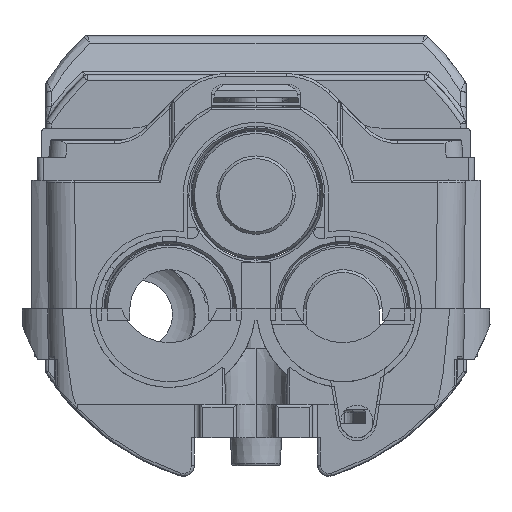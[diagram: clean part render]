
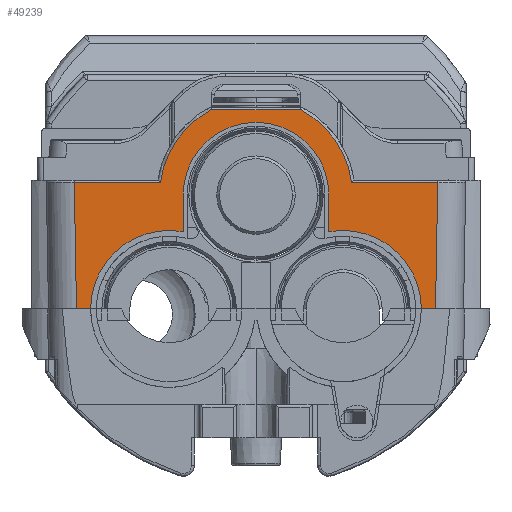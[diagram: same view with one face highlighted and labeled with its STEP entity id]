
A CAD part, left-side view. The second image highlights one B-rep face of the part: STEP entity #49239.
In plain terms, the highlighted planar face has unit normal (-1, 0, 0).
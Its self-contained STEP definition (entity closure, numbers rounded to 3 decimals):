
#222 = AXIS2_PLACEMENT_3D ( 'NONE', #53889, #26287, #58573 ) ;
#791 = CARTESIAN_POINT ( 'NONE',  ( -325.383, 32.028, 34. ) ) ;
#1008 = ORIENTED_EDGE ( 'NONE', *, *, #38467, .F. ) ;
#1701 = DIRECTION ( 'NONE',  ( 0., -1., 0. ) ) ;
#1873 = CARTESIAN_POINT ( 'NONE',  ( -325.383, 29.5, 34. ) ) ;
#2043 = DIRECTION ( 'NONE',  ( -1., 0., 0. ) ) ;
#3951 = EDGE_CURVE ( 'NONE', #58477, #34245, #55581, .T. ) ;
#4007 = EDGE_CURVE ( 'NONE', #58830, #18048, #18743, .T. ) ;
#4240 = DIRECTION ( 'NONE',  ( 0., -1., 0. ) ) ;
#4729 = CARTESIAN_POINT ( 'NONE',  ( -325.383, 37.029, 34. ) ) ;
#5049 = CARTESIAN_POINT ( 'NONE',  ( -325.383, -32.421, 56.5 ) ) ;
#5296 = ORIENTED_EDGE ( 'NONE', *, *, #16974, .T. ) ;
#5644 = ORIENTED_EDGE ( 'NONE', *, *, #56131, .T. ) ;
#5898 = CARTESIAN_POINT ( 'NONE',  ( -325.383, -17.059, 56.5 ) ) ;
#6419 = VERTEX_POINT ( 'NONE', #1873 ) ;
#6484 = CARTESIAN_POINT ( 'NONE',  ( -325.383, 37.029, 56.5 ) ) ;
#6900 = VECTOR ( 'NONE', #44057, 1000. ) ;
#8165 = FACE_OUTER_BOUND ( 'NONE', #57544, .T. ) ;
#8350 = LINE ( 'NONE', #20771, #6900 ) ;
#8516 = EDGE_CURVE ( 'NONE', #46734, #58830, #13462, .T. ) ;
#9802 = DIRECTION ( 'NONE',  ( 0., -0.017, 1. ) ) ;
#10716 = ORIENTED_EDGE ( 'NONE', *, *, #4007, .T. ) ;
#13462 = CIRCLE ( 'NONE', #222, 17.2 ) ;
#14163 = CIRCLE ( 'NONE', #31061, 14. ) ;
#14479 = CARTESIAN_POINT ( 'NONE',  ( -325.383, 37.029, 76. ) ) ;
#14484 = VERTEX_POINT ( 'NONE', #57012 ) ;
#15572 = CARTESIAN_POINT ( 'NONE',  ( -325.383, 0., 54.3 ) ) ;
#16269 = DIRECTION ( 'NONE',  ( 0., 0., -1. ) ) ;
#16968 = EDGE_CURVE ( 'NONE', #52566, #6419, #57452, .T. ) ;
#16974 = EDGE_CURVE ( 'NONE', #14484, #31967, #8350, .T. ) ;
#17276 = VECTOR ( 'NONE', #52922, 1000. ) ;
#17305 = LINE ( 'NONE', #40401, #28197 ) ;
#18048 = VERTEX_POINT ( 'NONE', #23817 ) ;
#18743 = LINE ( 'NONE', #24925, #17276 ) ;
#19135 = DIRECTION ( 'NONE',  ( 0., 0., -1. ) ) ;
#20227 = DIRECTION ( 'NONE',  ( 0., -1., 0. ) ) ;
#20771 = CARTESIAN_POINT ( 'NONE',  ( -325.383, 37.029, 56.5 ) ) ;
#23817 = CARTESIAN_POINT ( 'NONE',  ( -325.383, 8.05, 69.5 ) ) ;
#24042 = ORIENTED_EDGE ( 'NONE', *, *, #48209, .T. ) ;
#24925 = CARTESIAN_POINT ( 'NONE',  ( -325.383, 37.029, 69.5 ) ) ;
#25693 = EDGE_CURVE ( 'NONE', #46870, #34369, #45342, .T. ) ;
#26287 = DIRECTION ( 'NONE',  ( -1., 0., 0. ) ) ;
#28197 = VECTOR ( 'NONE', #44986, 1000. ) ;
#28384 = VERTEX_POINT ( 'NONE', #48351 ) ;
#29345 = DIRECTION ( 'NONE',  ( -1., 0., 0. ) ) ;
#29455 = AXIS2_PLACEMENT_3D ( 'NONE', #15572, #47907, #20227 ) ;
#29687 = CARTESIAN_POINT ( 'NONE',  ( -325.383, 0., 54.3 ) ) ;
#30200 = ORIENTED_EDGE ( 'NONE', *, *, #37038, .T. ) ;
#30595 = VERTEX_POINT ( 'NONE', #42043 ) ;
#30811 = EDGE_CURVE ( 'NONE', #31967, #52566, #17305, .T. ) ;
#31061 = AXIS2_PLACEMENT_3D ( 'NONE', #59555, #31876, #4240 ) ;
#31579 = EDGE_CURVE ( 'NONE', #34245, #46870, #34017, .T. ) ;
#31876 = DIRECTION ( 'NONE',  ( -1., 0., 0. ) ) ;
#31967 = VERTEX_POINT ( 'NONE', #36031 ) ;
#32449 = VECTOR ( 'NONE', #16269, 1000. ) ;
#32785 = EDGE_CURVE ( 'NONE', #34369, #28384, #46186, .T. ) ;
#32918 = PLANE ( 'NONE',  #49957 ) ;
#34017 = LINE ( 'NONE', #49765, #44856 ) ;
#34245 = VERTEX_POINT ( 'NONE', #35671 ) ;
#34369 = VERTEX_POINT ( 'NONE', #55347 ) ;
#34376 = DIRECTION ( 'NONE',  ( 0., 0., -1. ) ) ;
#34927 = CARTESIAN_POINT ( 'NONE',  ( -325.383, 13., 54.3 ) ) ;
#35184 = CARTESIAN_POINT ( 'NONE',  ( -325.383, -13., 54.3 ) ) ;
#35671 = CARTESIAN_POINT ( 'NONE',  ( -325.383, -13., 47.775 ) ) ;
#35743 = ORIENTED_EDGE ( 'NONE', *, *, #31579, .F. ) ;
#36031 = CARTESIAN_POINT ( 'NONE',  ( -325.383, 32.421, 56.5 ) ) ;
#36069 = CARTESIAN_POINT ( 'NONE',  ( -325.383, -8.05, 69.5 ) ) ;
#37038 = EDGE_CURVE ( 'NONE', #59724, #46734, #59004, .T. ) ;
#37084 = DIRECTION ( 'NONE',  ( 0., -1., 0. ) ) ;
#37913 = ORIENTED_EDGE ( 'NONE', *, *, #32785, .F. ) ;
#38467 = EDGE_CURVE ( 'NONE', #28384, #6419, #14163, .T. ) ;
#38871 = DIRECTION ( 'NONE',  ( 0., 1., 0. ) ) ;
#39259 = CARTESIAN_POINT ( 'NONE',  ( -325.383, 37.029, 34. ) ) ;
#40358 = AXIS2_PLACEMENT_3D ( 'NONE', #56997, #29345, #1701 ) ;
#40401 = CARTESIAN_POINT ( 'NONE',  ( -325.383, 32.762, 76.074 ) ) ;
#42043 = CARTESIAN_POINT ( 'NONE',  ( -325.383, -32.028, 34. ) ) ;
#43287 = ORIENTED_EDGE ( 'NONE', *, *, #8516, .T. ) ;
#43779 = VECTOR ( 'NONE', #53053, 1000. ) ;
#44057 = DIRECTION ( 'NONE',  ( 0., 1., 0. ) ) ;
#44185 = AXIS2_PLACEMENT_3D ( 'NONE', #29687, #2043, #34376 ) ;
#44426 = ORIENTED_EDGE ( 'NONE', *, *, #3951, .F. ) ;
#44856 = VECTOR ( 'NONE', #54387, 1000. ) ;
#44986 = DIRECTION ( 'NONE',  ( 0., -0.017, -1. ) ) ;
#45342 = CIRCLE ( 'NONE', #29455, 13. ) ;
#46186 = LINE ( 'NONE', #34927, #32449 ) ;
#46547 = ORIENTED_EDGE ( 'NONE', *, *, #25693, .F. ) ;
#46734 = VERTEX_POINT ( 'NONE', #5898 ) ;
#46787 = CARTESIAN_POINT ( 'NONE',  ( -325.383, -29.5, 34. ) ) ;
#46837 = DIRECTION ( 'NONE',  ( 1., 0., 0. ) ) ;
#46870 = VERTEX_POINT ( 'NONE', #35184 ) ;
#47166 = LINE ( 'NONE', #55763, #59441 ) ;
#47907 = DIRECTION ( 'NONE',  ( -1., 0., 0. ) ) ;
#48209 = EDGE_CURVE ( 'NONE', #18048, #14484, #52188, .T. ) ;
#48351 = CARTESIAN_POINT ( 'NONE',  ( -325.383, 13., 47.775 ) ) ;
#48575 = EDGE_CURVE ( 'NONE', #58477, #30595, #59404, .T. ) ;
#49239 = ADVANCED_FACE ( 'NONE', ( #8165 ), #32918, .F. ) ;
#49765 = CARTESIAN_POINT ( 'NONE',  ( -325.383, -13., 54.3 ) ) ;
#49957 = AXIS2_PLACEMENT_3D ( 'NONE', #14479, #46837, #19135 ) ;
#50007 = VECTOR ( 'NONE', #37084, 1000. ) ;
#52188 = CIRCLE ( 'NONE', #44185, 17.2 ) ;
#52566 = VERTEX_POINT ( 'NONE', #791 ) ;
#52922 = DIRECTION ( 'NONE',  ( 0., 1., 0. ) ) ;
#53053 = DIRECTION ( 'NONE',  ( 0., -1., 0. ) ) ;
#53678 = ORIENTED_EDGE ( 'NONE', *, *, #16968, .T. ) ;
#53853 = ORIENTED_EDGE ( 'NONE', *, *, #48575, .T. ) ;
#53889 = CARTESIAN_POINT ( 'NONE',  ( -325.383, 0., 54.3 ) ) ;
#54362 = ORIENTED_EDGE ( 'NONE', *, *, #30811, .T. ) ;
#54387 = DIRECTION ( 'NONE',  ( 0., 0., 1. ) ) ;
#55347 = CARTESIAN_POINT ( 'NONE',  ( -325.383, 13., 54.3 ) ) ;
#55581 = CIRCLE ( 'NONE', #40358, 14. ) ;
#55763 = CARTESIAN_POINT ( 'NONE',  ( -325.383, -32.74, 74.782 ) ) ;
#56131 = EDGE_CURVE ( 'NONE', #30595, #59724, #47166, .T. ) ;
#56997 = CARTESIAN_POINT ( 'NONE',  ( -325.383, -15.5, 34. ) ) ;
#57012 = CARTESIAN_POINT ( 'NONE',  ( -325.383, 17.059, 56.5 ) ) ;
#57452 = LINE ( 'NONE', #39259, #43779 ) ;
#57544 = EDGE_LOOP ( 'NONE', ( #24042, #5296, #54362, #53678, #1008, #37913, #46547, #35743, #44426, #53853, #5644, #30200, #43287, #10716 ) ) ;
#57559 = VECTOR ( 'NONE', #38871, 1000. ) ;
#58477 = VERTEX_POINT ( 'NONE', #46787 ) ;
#58573 = DIRECTION ( 'NONE',  ( 0., 0., -1. ) ) ;
#58830 = VERTEX_POINT ( 'NONE', #36069 ) ;
#59004 = LINE ( 'NONE', #6484, #57559 ) ;
#59404 = LINE ( 'NONE', #4729, #50007 ) ;
#59441 = VECTOR ( 'NONE', #9802, 1000. ) ;
#59555 = CARTESIAN_POINT ( 'NONE',  ( -325.383, 15.5, 34. ) ) ;
#59724 = VERTEX_POINT ( 'NONE', #5049 ) ;
